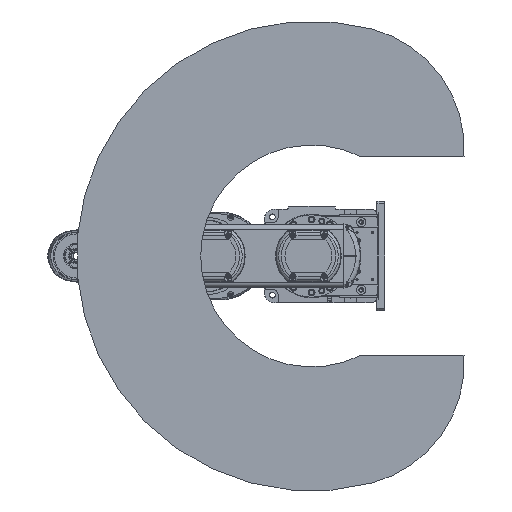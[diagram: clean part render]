
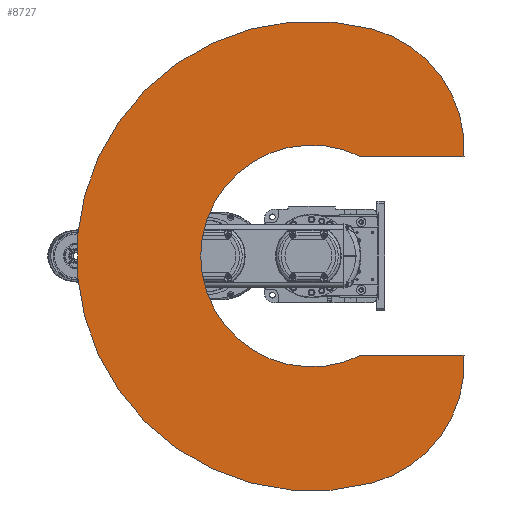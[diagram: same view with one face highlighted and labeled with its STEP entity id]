
A CAD part, front view. The second image highlights one B-rep face of the part: STEP entity #8727.
In plain terms, the highlighted planar face has unit normal (0, -1, 0).
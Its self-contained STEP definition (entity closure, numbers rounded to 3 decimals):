
#8727 = ADVANCED_FACE( '', ( #19139 ), #19140, .F. );
#19139 = FACE_OUTER_BOUND( '', #31064, .T. );
#19140 = PLANE( '', #31065 );
#31064 = EDGE_LOOP( '', ( #54727, #54728, #54729, #54730, #54731, #54732 ) );
#31065 = AXIS2_PLACEMENT_3D( '', #54733, #54734, #54735 );
#54727 = ORIENTED_EDGE( '', *, *, #65089, .T. );
#54728 = ORIENTED_EDGE( '', *, *, #61501, .F. );
#54729 = ORIENTED_EDGE( '', *, *, #67610, .F. );
#54730 = ORIENTED_EDGE( '', *, *, #60672, .F. );
#54731 = ORIENTED_EDGE( '', *, *, #68621, .T. );
#54732 = ORIENTED_EDGE( '', *, *, #67272, .F. );
#54733 = CARTESIAN_POINT( '', ( 102.614, 0., 27.495 ) );
#54734 = DIRECTION( '', ( 0., 1., 0. ) );
#54735 = DIRECTION( '', ( 0., 0., 1. ) );
#60672 = EDGE_CURVE( '', #71022, #71025, #71026, .T. );
#61501 = EDGE_CURVE( '', #72533, #72529, #72535, .T. );
#65089 = EDGE_CURVE( '', #78440, #72529, #78441, .T. );
#67272 = EDGE_CURVE( '', #78440, #81615, #81616, .F. );
#67610 = EDGE_CURVE( '', #71025, #72533, #82073, .T. );
#68621 = EDGE_CURVE( '', #71022, #81615, #83356, .T. );
#71022 = VERTEX_POINT( '', #86593 );
#71025 = VERTEX_POINT( '', #86597 );
#71026 = CIRCLE( '', #86598, 237.533 );
#72529 = VERTEX_POINT( '', #88926 );
#72533 = VERTEX_POINT( '', #88931 );
#72535 = CIRCLE( '', #88934, 237.533 );
#78440 = VERTEX_POINT( '', #98786 );
#78441 = LINE( '', #98787, #98788 );
#81615 = VERTEX_POINT( '', #104195 );
#81616 = CIRCLE( '', #104196, 212.47 );
#82073 = CIRCLE( '', #104921, 450. );
#83356 = LINE( '', #107282, #107283 );
#86593 = CARTESIAN_POINT( '', ( 190., 0., 292.035 ) );
#86597 = CARTESIAN_POINT( '', ( 434.667, 0., 116.469 ) );
#86598 = AXIS2_PLACEMENT_3D( '', #110950, #110951, #110952 );
#88926 = CARTESIAN_POINT( '', ( -190., 0., 292.035 ) );
#88931 = CARTESIAN_POINT( '', ( -434.667, 0., 116.469 ) );
#88934 = AXIS2_PLACEMENT_3D( '', #112148, #112149, #112150 );
#98786 = CARTESIAN_POINT( '', ( -190., 0., 95.097 ) );
#98787 = CARTESIAN_POINT( '', ( -190., 0., 0. ) );
#98788 = VECTOR( '', #116924, 1000. );
#104195 = CARTESIAN_POINT( '', ( 190., 0., 95.097 ) );
#104196 = AXIS2_PLACEMENT_3D( '', #119416, #119417, #119418 );
#104921 = AXIS2_PLACEMENT_3D( '', #119770, #119771, #119772 );
#107282 = CARTESIAN_POINT( '', ( 190., 0., 400. ) );
#107283 = VECTOR( '', #120759, 1000. );
#110950 = CARTESIAN_POINT( '', ( 205.228, 0., 54.991 ) );
#110951 = DIRECTION( '', ( 0., 1., 0. ) );
#110952 = DIRECTION( '', ( 1., 0., 0. ) );
#112148 = CARTESIAN_POINT( '', ( -205.228, 0., 54.991 ) );
#112149 = DIRECTION( '', ( 0., 1., 0. ) );
#112150 = DIRECTION( '', ( 1., 0., 0. ) );
#116924 = DIRECTION( '', ( 0., 0., 1. ) );
#119416 = CARTESIAN_POINT( '', ( 0., 0., 0. ) );
#119417 = DIRECTION( '', ( 0., 1., 0. ) );
#119418 = DIRECTION( '', ( 0., 0., 1. ) );
#119770 = CARTESIAN_POINT( '', ( 0., 0., 0. ) );
#119771 = DIRECTION( '', ( 0., 1., 0. ) );
#119772 = DIRECTION( '', ( 1., 0., 0. ) );
#120759 = DIRECTION( '', ( 0., 0., -1. ) );
